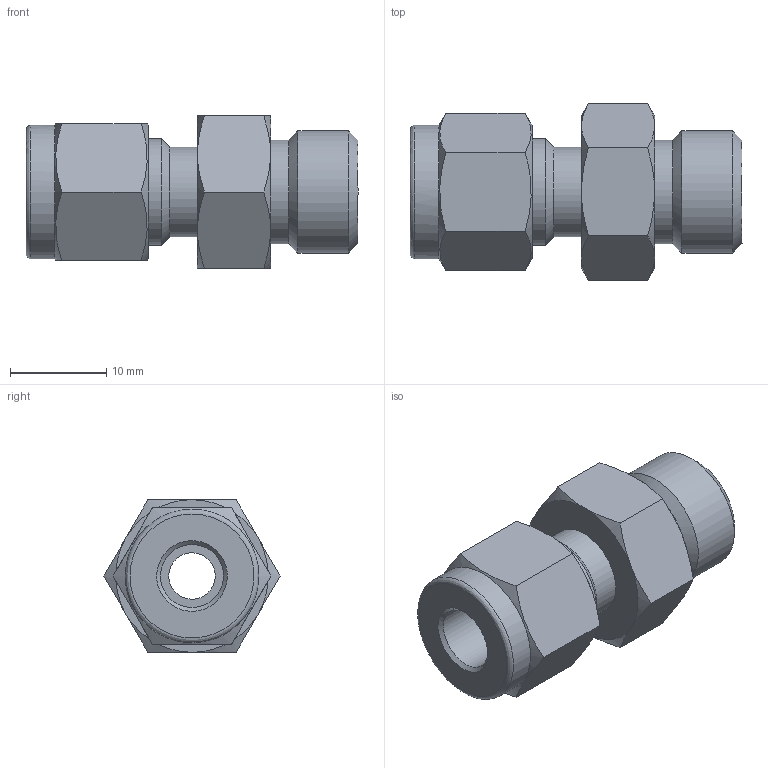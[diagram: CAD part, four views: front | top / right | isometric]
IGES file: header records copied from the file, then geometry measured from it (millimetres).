
Global section: file name: SSMC-4-5U; native system: Autodesk Inventor 2016; preprocessor: unknown; author: DESIGNPC2; date: 20160125.094724; units: millimetre
Bounding box: 34.54 x 18.33 x 15.88 mm (x, y, z)
Volume: 4368.8 mm3; surface area: 2707.7 mm2
Topology: 1 solids, 1 shells, 46 faces, 116 edges, 77 vertices
Faces by surface type: bspline 46
